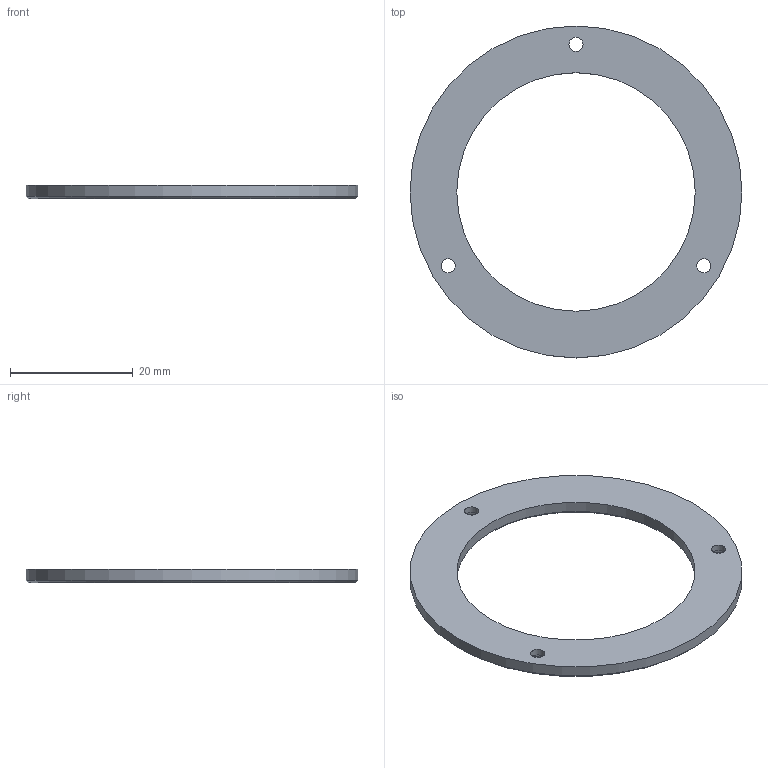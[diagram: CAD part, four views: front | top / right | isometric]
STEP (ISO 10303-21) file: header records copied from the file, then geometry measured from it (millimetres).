
FILE_DESCRIPTION(('Open CASCADE Model'),'2;1');
FILE_NAME('Open CASCADE Shape Model','2026-11-04T16:22:49',('Author'),( 'Open CASCADE'),'Open CASCADE STEP processor 7.9','Open CASCADE 7.9' ,'Unknown');
FILE_SCHEMA(('AUTOMOTIVE_DESIGN { 1 0 10303 214 1 1 1 1 }'));
Length unit declared in the file: millimetre
Products named in the file (1): Open CASCADE STEP translator 7.9 2
Bounding box: 54 x 54 x 2.2 mm (x, y, z)
Volume: 2350.1 mm3; surface area: 2833.3 mm2
Topology: 1 solids, 1 shells, 15 faces, 28 edges, 18 vertices
Faces by surface type: cylinder 8, plane 5, cone 2
Full cylindrical faces by diameter (mm): 2.3 x3, 4.4 x3, 38.8 x1, 54 x1
Entity records: 792 total; most frequent: CARTESIAN_POINT 154, DIRECTION 128, ORIENTED_EDGE 56, PCURVE 56, DEFINITIONAL_REPRESENTATION 56, LINE 50, VECTOR 50, AXIS2_PLACEMENT_3D 34
